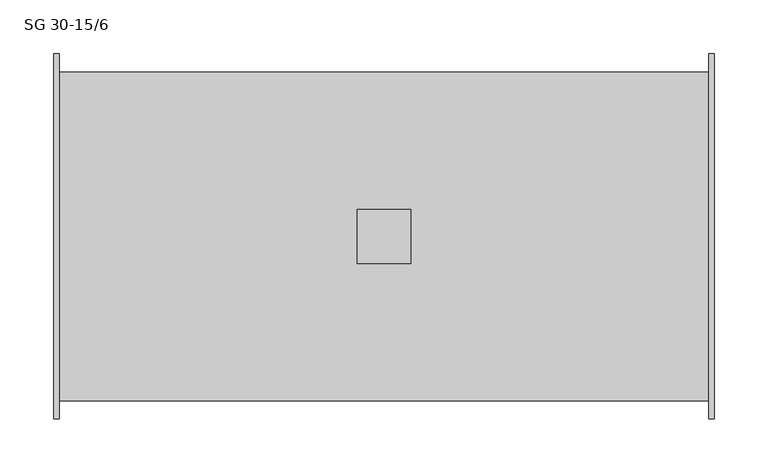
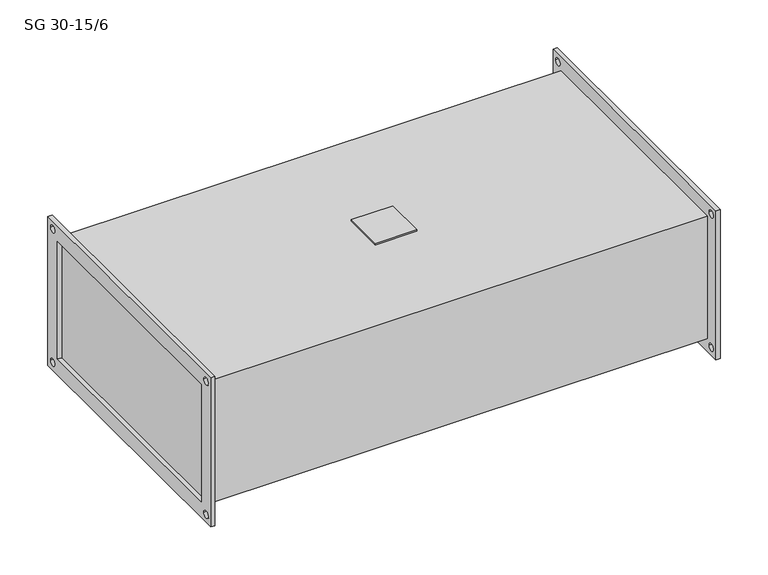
"""IFC4 building model written with IfcOpenShell, lengths in millimetres: damper geometry, KORF_Шумоглушитель_SG : SG 30-15/6."""

from ifc_helpers import new_model, si_unit, point, frame, frame_2d, origin, place, context, project, spatial, polyline, circle_curve, trimmed, segment, composite_curve, outline, extrude, source, transform, mapped, element, save


def sg_30_15_6_af9fe228(model_context):
    return source(origin(), model_context, "Body", "SweptSolid", [
        extrude(outline(polyline([(282.0, -25.0), (282.0, 25.0), (332.0, 25.0), (332.0, -25.0), (282.0, -25.0)])), frame((0.0, 0.0, 78.0), z_axis=(0.0, 0.0, 1.0), x_axis=(1.0, 0.0, 0.0)), (0.0, 0.0, 1.0), 2.0),
        extrude(outline(polyline([(-170.0, 95.0), (170.0, 95.0), (170.0, -95.0), (-170.0, -95.0), (-170.0, 95.0)]), holes=[polyline([(-150.0, 75.0), (-150.0, -75.0), (150.0, -75.0), (150.0, 75.0), (-150.0, 75.0)]), composite_curve([segment(trimmed(circle_curve(frame_2d((160.0, 85.0)), 4.5), [point((155.5, 85.0))], [point((164.5, 85.0))], True, "CARTESIAN"), True, "CONTINUOUS"), segment(trimmed(circle_curve(frame_2d((160.0, 85.0)), 4.5), [point((164.5, 85.0))], [point((155.5, 85.0))], True, "CARTESIAN"), True, "CONTINUOUS")], self_intersect=False), composite_curve([segment(trimmed(circle_curve(frame_2d((-160.0, 85.0)), 4.5), [point((-164.5, 85.0))], [point((-155.5, 85.0))], True, "CARTESIAN"), True, "CONTINUOUS"), segment(trimmed(circle_curve(frame_2d((-160.0, 85.0)), 4.5), [point((-155.5, 85.0))], [point((-164.5, 85.0))], True, "CARTESIAN"), True, "CONTINUOUS")], self_intersect=False), composite_curve([segment(trimmed(circle_curve(frame_2d((-160.0, -85.0)), 4.5), [point((-164.5, -85.0))], [point((-155.5, -85.0))], True, "CARTESIAN"), True, "CONTINUOUS"), segment(trimmed(circle_curve(frame_2d((-160.0, -85.0)), 4.5), [point((-155.5, -85.0))], [point((-164.5, -85.0))], True, "CARTESIAN"), True, "CONTINUOUS")], self_intersect=False), composite_curve([segment(trimmed(circle_curve(frame_2d((160.0, -85.0)), 4.5), [point((155.5, -85.0))], [point((164.5, -85.0))], True, "CARTESIAN"), True, "CONTINUOUS"), segment(trimmed(circle_curve(frame_2d((160.0, -85.0)), 4.5), [point((164.5, -85.0))], [point((155.5, -85.0))], True, "CARTESIAN"), True, "CONTINUOUS")], self_intersect=False)]), frame((609.0, 0.0, 0.0), z_axis=(1.0, 0.0, 0.0), x_axis=(0.0, 1.0, 0.0)), (0.0, 0.0, 1.0), 5.0),
        extrude(outline(polyline([(-170.0, 95.0), (170.0, 95.0), (170.0, -95.0), (-170.0, -95.0), (-170.0, 95.0)]), holes=[polyline([(-150.0, 75.0), (-150.0, -75.0), (150.0, -75.0), (150.0, 75.0), (-150.0, 75.0)]), composite_curve([segment(trimmed(circle_curve(frame_2d((160.0, 85.0)), 4.5), [point((155.5, 85.0))], [point((164.5, 85.0))], True, "CARTESIAN"), True, "CONTINUOUS"), segment(trimmed(circle_curve(frame_2d((160.0, 85.0)), 4.5), [point((164.5, 85.0))], [point((155.5, 85.0))], True, "CARTESIAN"), True, "CONTINUOUS")], self_intersect=False), composite_curve([segment(trimmed(circle_curve(frame_2d((-160.0, 85.0)), 4.5), [point((-164.5, 85.0))], [point((-155.5, 85.0))], True, "CARTESIAN"), True, "CONTINUOUS"), segment(trimmed(circle_curve(frame_2d((-160.0, 85.0)), 4.5), [point((-155.5, 85.0))], [point((-164.5, 85.0))], True, "CARTESIAN"), True, "CONTINUOUS")], self_intersect=False), composite_curve([segment(trimmed(circle_curve(frame_2d((-160.0, -85.0)), 4.5), [point((-164.5, -85.0))], [point((-155.5, -85.0))], True, "CARTESIAN"), True, "CONTINUOUS"), segment(trimmed(circle_curve(frame_2d((-160.0, -85.0)), 4.5), [point((-155.5, -85.0))], [point((-164.5, -85.0))], True, "CARTESIAN"), True, "CONTINUOUS")], self_intersect=False), composite_curve([segment(trimmed(circle_curve(frame_2d((160.0, -85.0)), 4.5), [point((155.5, -85.0))], [point((164.5, -85.0))], True, "CARTESIAN"), True, "CONTINUOUS"), segment(trimmed(circle_curve(frame_2d((160.0, -85.0)), 4.5), [point((164.5, -85.0))], [point((155.5, -85.0))], True, "CARTESIAN"), True, "CONTINUOUS")], self_intersect=False)]), frame((0.0, 0.0, 0.0), z_axis=(1.0, 0.0, 0.0), x_axis=(0.0, 1.0, 0.0)), (0.0, 0.0, 1.0), 5.0),
        extrude(outline(polyline([(609.0, 153.0), (609.0, -153.0), (5.0, -153.0), (5.0, 153.0), (609.0, 153.0)])), frame((0.0, 0.0, -78.0), z_axis=(0.0, 0.0, 1.0), x_axis=(1.0, 0.0, 0.0)), (0.0, 0.0, 1.0), 156.0),
    ])


if __name__ == "__main__":
    model = new_model("IFC4")
    model_context = context("Model", 3, world=origin())
    ifc_project = project(units=[si_unit("LENGTHUNIT", "METRE", prefix="MILLI")], contexts=[model_context])
    site = spatial("IfcSite", under=ifc_project)
    building = spatial("IfcBuilding", under=site)
    placement = place(None, origin())
    sg_30_15_6_shape = sg_30_15_6_af9fe228(model_context)
    element("IfcDamper", 1, ObjectType="KORF_Шумоглушитель_SG : SG 30-15/6", at=placement, inside=building, context=model_context, shape_type="MappedRepresentation", body=[
        mapped(sg_30_15_6_shape, transform((0.0, 0.0, 0.0), x_axis=(1.0, 0.0, 0.0), y_axis=(0.0, 1.0, 0.0), z_axis=(0.0, 0.0, 1.0))),
    ])
    save(model, "model.ifc")
